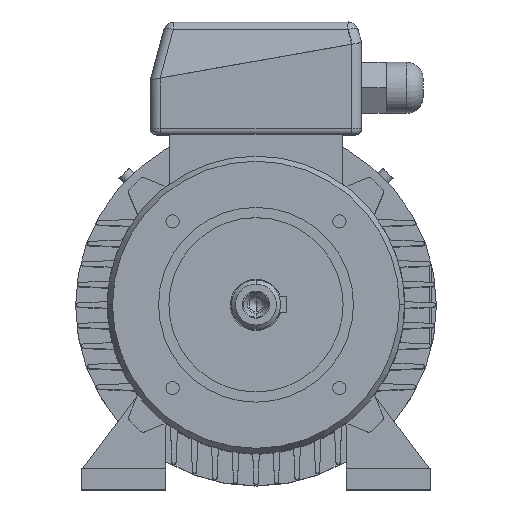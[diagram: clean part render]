
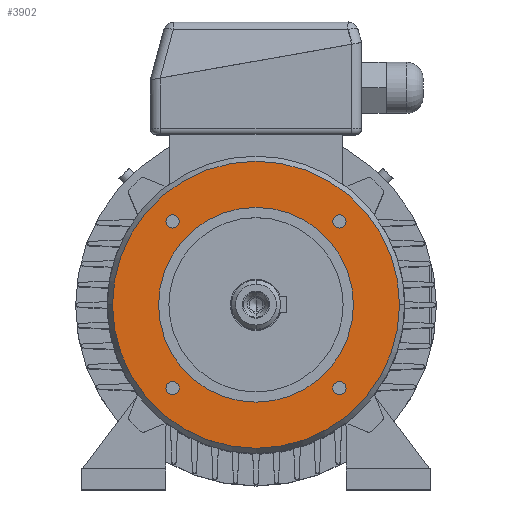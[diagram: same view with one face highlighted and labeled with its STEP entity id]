
A CAD part, top view. The second image highlights one B-rep face of the part: STEP entity #3902.
In plain terms, the highlighted planar face has unit normal (0, 0, 1).
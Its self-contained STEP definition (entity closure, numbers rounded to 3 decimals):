
#68 = EDGE_LOOP ( 'NONE', ( #12091, #11517 ) ) ;
#336 = ORIENTED_EDGE ( 'NONE', *, *, #6780, .F. ) ;
#510 = CARTESIAN_POINT ( 'NONE',  ( 43.909, 40.659, 40. ) ) ;
#578 = VERTEX_POINT ( 'NONE', #5434 ) ;
#665 = CIRCLE ( 'NONE', #666, 3.25 ) ;
#666 = AXIS2_PLACEMENT_3D ( 'NONE', #667, #668, #669 ) ;
#667 = CARTESIAN_POINT ( 'NONE',  ( 40.659, 40.659, 40. ) ) ;
#668 = DIRECTION ( 'NONE',  ( 0., 0., 1. ) ) ;
#669 = DIRECTION ( 'NONE',  ( 1., 0., 0. ) ) ;
#708 = CIRCLE ( 'NONE', #709, 3.25 ) ;
#709 = AXIS2_PLACEMENT_3D ( 'NONE', #710, #711, #712 ) ;
#710 = CARTESIAN_POINT ( 'NONE',  ( -40.659, -40.659, 40. ) ) ;
#711 = DIRECTION ( 'NONE',  ( 0., 0., 1. ) ) ;
#712 = DIRECTION ( 'NONE',  ( 1., 0., 0. ) ) ;
#830 = EDGE_CURVE ( 'NONE', #9781, #578, #5554, .T. ) ;
#1136 = CARTESIAN_POINT ( 'NONE',  ( 37.409, 40.659, 40. ) ) ;
#1585 = CARTESIAN_POINT ( 'NONE',  ( -43.909, -40.659, 40. ) ) ;
#2101 = CARTESIAN_POINT ( 'NONE',  ( -43.909, 40.659, 40. ) ) ;
#2902 = VERTEX_POINT ( 'NONE', #6872 ) ;
#2963 = EDGE_CURVE ( 'NONE', #2902, #3184, #7026, .T. ) ;
#3184 = VERTEX_POINT ( 'NONE', #7517 ) ;
#3351 = VERTEX_POINT ( 'NONE', #7840 ) ;
#3405 = EDGE_CURVE ( 'NONE', #8865, #3351, #7940, .T. ) ;
#3603 = EDGE_CURVE ( 'NONE', #578, #9781, #8381, .T. ) ;
#3715 = ORIENTED_EDGE ( 'NONE', *, *, #3603, .F. ) ;
#3847 = EDGE_LOOP ( 'NONE', ( #3715, #8078 ) ) ;
#3902 = ADVANCED_FACE ( 'NONE', ( #9029, #9030, #9031, #9032, #9033, #9034 ), #9040, .T. ) ;
#4243 = EDGE_CURVE ( 'NONE', #4542, #4604, #10093, .T. ) ;
#4397 = VERTEX_POINT ( 'NONE', #10732 ) ;
#4454 = EDGE_CURVE ( 'NONE', #4672, #4397, #10973, .T. ) ;
#4542 = VERTEX_POINT ( 'NONE', #11215 ) ;
#4604 = VERTEX_POINT ( 'NONE', #11345 ) ;
#4658 = EDGE_CURVE ( 'NONE', #4604, #4542, #11478, .T. ) ;
#4672 = VERTEX_POINT ( 'NONE', #11506 ) ;
#4756 = EDGE_CURVE ( 'NONE', #6529, #7769, #11666, .T. ) ;
#4787 = ORIENTED_EDGE ( 'NONE', *, *, #4756, .F. ) ;
#4917 = EDGE_LOOP ( 'NONE', ( #4787, #336 ) ) ;
#4969 = ORIENTED_EDGE ( 'NONE', *, *, #4454, .F. ) ;
#5100 = EDGE_CURVE ( 'NONE', #4397, #4672, #12408, .T. ) ;
#5251 = ORIENTED_EDGE ( 'NONE', *, *, #5100, .F. ) ;
#5434 = CARTESIAN_POINT ( 'NONE',  ( -37.409, 40.659, 40. ) ) ;
#5554 = CIRCLE ( 'NONE', #5555, 3.25 ) ;
#5555 = AXIS2_PLACEMENT_3D ( 'NONE', #5556, #5565, #5566 ) ;
#5556 = CARTESIAN_POINT ( 'NONE',  ( -40.659, 40.659, 40. ) ) ;
#5565 = DIRECTION ( 'NONE',  ( 0., 0., 1. ) ) ;
#5566 = DIRECTION ( 'NONE',  ( 1., 0., 0. ) ) ;
#6021 = EDGE_LOOP ( 'NONE', ( #5251, #4969 ) ) ;
#6285 = ORIENTED_EDGE ( 'NONE', *, *, #3405, .F. ) ;
#6529 = VERTEX_POINT ( 'NONE', #510 ) ;
#6780 = EDGE_CURVE ( 'NONE', #7769, #6529, #665, .T. ) ;
#6862 = EDGE_CURVE ( 'NONE', #3351, #8865, #708, .T. ) ;
#6872 = CARTESIAN_POINT ( 'NONE',  ( 0., 47.5, 40. ) ) ;
#7026 = CIRCLE ( 'NONE', #7027, 47.5 ) ;
#7027 = AXIS2_PLACEMENT_3D ( 'NONE', #7028, #7029, #7030 ) ;
#7028 = CARTESIAN_POINT ( 'NONE',  ( 0., 0., 40. ) ) ;
#7029 = DIRECTION ( 'NONE',  ( 0., 0., -1. ) ) ;
#7030 = DIRECTION ( 'NONE',  ( 0., 1., 0. ) ) ;
#7277 = ORIENTED_EDGE ( 'NONE', *, *, #6862, .F. ) ;
#7517 = CARTESIAN_POINT ( 'NONE',  ( 0., -47.5, 40. ) ) ;
#7769 = VERTEX_POINT ( 'NONE', #1136 ) ;
#7840 = CARTESIAN_POINT ( 'NONE',  ( -37.409, -40.659, 40. ) ) ;
#7853 = EDGE_LOOP ( 'NONE', ( #7277, #6285 ) ) ;
#7940 = CIRCLE ( 'NONE', #7941, 3.25 ) ;
#7941 = AXIS2_PLACEMENT_3D ( 'NONE', #7942, #7943, #7944 ) ;
#7942 = CARTESIAN_POINT ( 'NONE',  ( -40.659, -40.659, 40. ) ) ;
#7943 = DIRECTION ( 'NONE',  ( 0., 0., 1. ) ) ;
#7944 = DIRECTION ( 'NONE',  ( 1., 0., 0. ) ) ;
#8078 = ORIENTED_EDGE ( 'NONE', *, *, #830, .F. ) ;
#8381 = CIRCLE ( 'NONE', #8382, 3.25 ) ;
#8382 = AXIS2_PLACEMENT_3D ( 'NONE', #8383, #8384, #8385 ) ;
#8383 = CARTESIAN_POINT ( 'NONE',  ( -40.659, 40.659, 40. ) ) ;
#8384 = DIRECTION ( 'NONE',  ( 0., 0., 1. ) ) ;
#8385 = DIRECTION ( 'NONE',  ( 1., 0., 0. ) ) ;
#8865 = VERTEX_POINT ( 'NONE', #1585 ) ;
#9029 = FACE_BOUND ( 'NONE', #3847, .T. ) ;
#9030 = FACE_BOUND ( 'NONE', #7853, .T. ) ;
#9031 = FACE_BOUND ( 'NONE', #6021, .T. ) ;
#9032 = FACE_BOUND ( 'NONE', #4917, .T. ) ;
#9033 = FACE_BOUND ( 'NONE', #68, .T. ) ;
#9034 = FACE_OUTER_BOUND ( 'NONE', #10843, .T. ) ;
#9040 = PLANE ( 'NONE',  #9041 ) ;
#9041 = AXIS2_PLACEMENT_3D ( 'NONE', #9042, #9043, #9044 ) ;
#9042 = CARTESIAN_POINT ( 'NONE',  ( 0., 70., 40. ) ) ;
#9043 = DIRECTION ( 'NONE',  ( 0., 0., 1. ) ) ;
#9044 = DIRECTION ( 'NONE',  ( 0., -1., 0. ) ) ;
#9675 = ORIENTED_EDGE ( 'NONE', *, *, #4243, .F. ) ;
#9706 = CIRCLE ( 'NONE', #9707, 47.5 ) ;
#9707 = AXIS2_PLACEMENT_3D ( 'NONE', #9708, #9709, #9710 ) ;
#9708 = CARTESIAN_POINT ( 'NONE',  ( 0., 0., 40. ) ) ;
#9709 = DIRECTION ( 'NONE',  ( 0., 0., -1. ) ) ;
#9710 = DIRECTION ( 'NONE',  ( 0., 1., 0. ) ) ;
#9781 = VERTEX_POINT ( 'NONE', #2101 ) ;
#10093 = CIRCLE ( 'NONE', #10094, 70. ) ;
#10094 = AXIS2_PLACEMENT_3D ( 'NONE', #10095, #10096, #10097 ) ;
#10095 = CARTESIAN_POINT ( 'NONE',  ( 0., 0., 40. ) ) ;
#10096 = DIRECTION ( 'NONE',  ( 0., 0., -1. ) ) ;
#10097 = DIRECTION ( 'NONE',  ( 0., 1., 0. ) ) ;
#10250 = ORIENTED_EDGE ( 'NONE', *, *, #4658, .F. ) ;
#10732 = CARTESIAN_POINT ( 'NONE',  ( 43.909, -40.659, 40. ) ) ;
#10843 = EDGE_LOOP ( 'NONE', ( #10250, #9675 ) ) ;
#10973 = CIRCLE ( 'NONE', #10974, 3.25 ) ;
#10974 = AXIS2_PLACEMENT_3D ( 'NONE', #10975, #10976, #10977 ) ;
#10975 = CARTESIAN_POINT ( 'NONE',  ( 40.659, -40.659, 40. ) ) ;
#10976 = DIRECTION ( 'NONE',  ( 0., 0., 1. ) ) ;
#10977 = DIRECTION ( 'NONE',  ( 1., 0., 0. ) ) ;
#11106 = EDGE_CURVE ( 'NONE', #3184, #2902, #9706, .T. ) ;
#11215 = CARTESIAN_POINT ( 'NONE',  ( 0., -70., 40. ) ) ;
#11345 = CARTESIAN_POINT ( 'NONE',  ( 0., 70., 40. ) ) ;
#11478 = CIRCLE ( 'NONE', #11479, 70. ) ;
#11479 = AXIS2_PLACEMENT_3D ( 'NONE', #11480, #11481, #11482 ) ;
#11480 = CARTESIAN_POINT ( 'NONE',  ( 0., 0., 40. ) ) ;
#11481 = DIRECTION ( 'NONE',  ( 0., 0., -1. ) ) ;
#11482 = DIRECTION ( 'NONE',  ( 0., 1., 0. ) ) ;
#11506 = CARTESIAN_POINT ( 'NONE',  ( 37.409, -40.659, 40. ) ) ;
#11517 = ORIENTED_EDGE ( 'NONE', *, *, #11106, .T. ) ;
#11666 = CIRCLE ( 'NONE', #11667, 3.25 ) ;
#11667 = AXIS2_PLACEMENT_3D ( 'NONE', #11668, #11669, #11677 ) ;
#11668 = CARTESIAN_POINT ( 'NONE',  ( 40.659, 40.659, 40. ) ) ;
#11669 = DIRECTION ( 'NONE',  ( 0., 0., 1. ) ) ;
#11677 = DIRECTION ( 'NONE',  ( 1., 0., 0. ) ) ;
#12091 = ORIENTED_EDGE ( 'NONE', *, *, #2963, .T. ) ;
#12408 = CIRCLE ( 'NONE', #12409, 3.25 ) ;
#12409 = AXIS2_PLACEMENT_3D ( 'NONE', #12414, #12415, #12416 ) ;
#12414 = CARTESIAN_POINT ( 'NONE',  ( 40.659, -40.659, 40. ) ) ;
#12415 = DIRECTION ( 'NONE',  ( 0., 0., 1. ) ) ;
#12416 = DIRECTION ( 'NONE',  ( 1., 0., 0. ) ) ;
